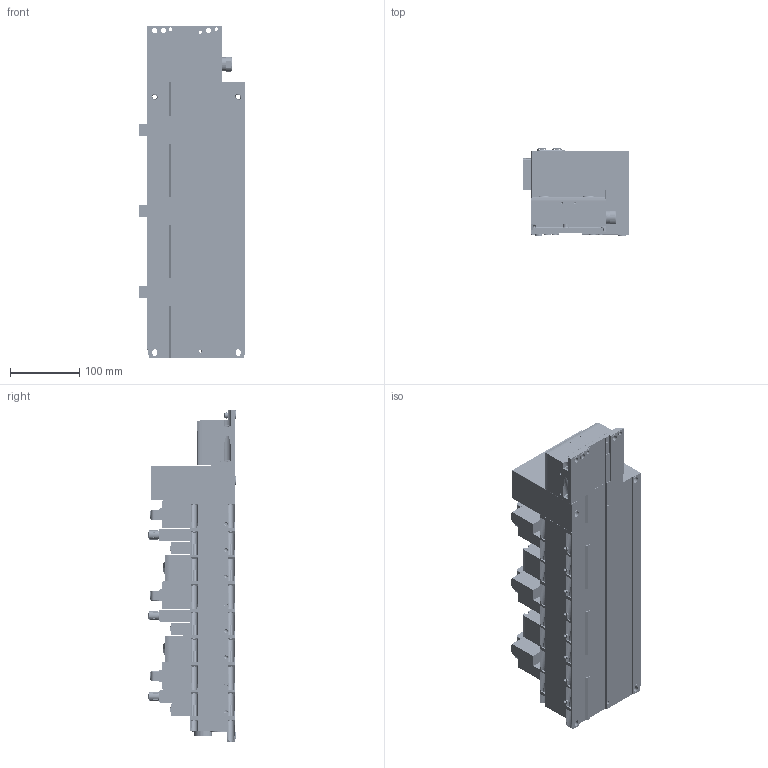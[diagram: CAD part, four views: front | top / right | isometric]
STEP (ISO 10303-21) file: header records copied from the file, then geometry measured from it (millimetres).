
FILE_DESCRIPTION( ( 'STEP AP214' ), '1' );
FILE_NAME( 'p:/temp/worker_1088/temp/exporttempdir_1192_421_dM550/format_0/Configuration03_8073100_51E-F33GCQP-RC.stp', '2020-07-23T15:23:27', ( 'License CC BY-ND 4.0' ), ( 'CADENAS' ), ' ', 'PARTsolutions', ' ' );
FILE_SCHEMA( ( 'AUTOMOTIVE_DESIGN { 1 0 10303 214 1 1 1 1 }' ) );
Length unit declared in the file: millimetre
Products named in the file (17): 8073100 51E-F33GCQP-RC 46P-B-NSAB-PSPMNGWZQZAUSWYLYQTLPSPMNGWZQZAUSWYLYQTLPSPMNGWZQZA-JLJLJL; HI_8068240 VABA-S6-1-X2-F1-CB---(EPL); HI_8068610 VABV-S6-1Q-G38-CB-T5---(VKPL_0); _8067407 VABF-S6-1-P5A4S1YE-G12-1T5-PA---(high); _174308 B-M5-B---(VCB); _8067932 VABV-S4-2HS-G18-CB-2T2---(VKPL_0); HI_8033450 VSVA-B-B52-ZTR-A2-1T1L---(VT462); _4105147 VAMC-B-S6-CTR---(vtsa_kappe); HI_539213 VABB-S4-2-WT---(VT465); HI_8104044 VABF-S6-1-P8A7-G12-CB1---(VT46); HI_8090343 VABF-S6-1-P8A7-G12-CB-DECKEL---(VT46); HI_539234 VABE-S6-1R-G12---(PL); _3571 B-1/2---(VCBE); HI_550212 CPX-M-EPL-EV---(EPL_51E); HI_550208 CPX-M-GE-EV-S-7/8-5POL---(EV); HI_548755 CPX-FB33---(EA); HI_548757 CPX-AK-P---(g_2_1)
Assembly tree (35 placements, depth 2):
  8073100 51E-F33GCQP-RC 46P-B-NSAB-PSPMNGWZQZAUSWYLYQTLPSPMNGWZQZAUSWYLYQTLPSPMNGWZQZA-JLJLJL
    HI_8068240 VABA-S6-1-X2-F1-CB---(EPL)
    HI_8068610 VABV-S6-1Q-G38-CB-T5---(VKPL_0)  x3
    _8067407 VABF-S6-1-P5A4S1YE-G12-1T5-PA---(high)  x3
    _174308 B-M5-B---(VCB)  x3
    _8067932 VABV-S4-2HS-G18-CB-2T2---(VKPL_0)  x3
    HI_8033450 VSVA-B-B52-ZTR-A2-1T1L---(VT462)  x3
    _4105147 VAMC-B-S6-CTR---(vtsa_kappe)  x6
    HI_539213 VABB-S4-2-WT---(VT465)  x3
    HI_8104044 VABF-S6-1-P8A7-G12-CB1---(VT46)  x2
    HI_8090343 VABF-S6-1-P8A7-G12-CB-DECKEL---(VT46)  x2
    HI_539234 VABE-S6-1R-G12---(PL)
    _3571 B-1/2---(VCBE)
    HI_550212 CPX-M-EPL-EV---(EPL_51E)
    HI_550208 CPX-M-GE-EV-S-7/8-5POL---(EV)
    HI_548755 CPX-FB33---(EA)
    HI_548757 CPX-AK-P---(g_2_1)
Bounding box: 154.9 x 126.04 x 480.8 mm (x, y, z)
Volume: 5291331.2 mm3; surface area: 768051.3 mm2
Topology: 35 solids, 35 shells, 4159 faces, 10613 edges, 6907 vertices
Faces by surface type: plane 2284, cylinder 1381, cone 407, torus 71, bspline 13, sphere 3
Full cylindrical faces by diameter (mm): 1.1 x12, 2 x5, 2.3 x2, 2.459 x4, 2.8 x2, 3 x6, 3.2 x6, 3.242 x24, 3.3 x17, 4 x17, 4.134 x61, 4.3 x9, 4.5 x1, 5 x59, 5.2 x24, 5.5 x16, 5.6 x2, 5.8 x6, 6 x11, 6.4 x3, 6.5 x8, 6.6 x5, 7.2 x6, 7.5 x4, 7.6 x6, 8 x17, 8.2 x3, 8.3 x3, 8.5 x12, 8.566 x12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
Entity records: 72966 total; most frequent: CARTESIAN_POINT 10880, DIRECTION 9897, ORIENTED_EDGE 8696, EDGE_CURVE 4348, AXIS2_PLACEMENT_3D 3686, VERTEX_POINT 3111, EDGE_LOOP 2729, LINE 2525
